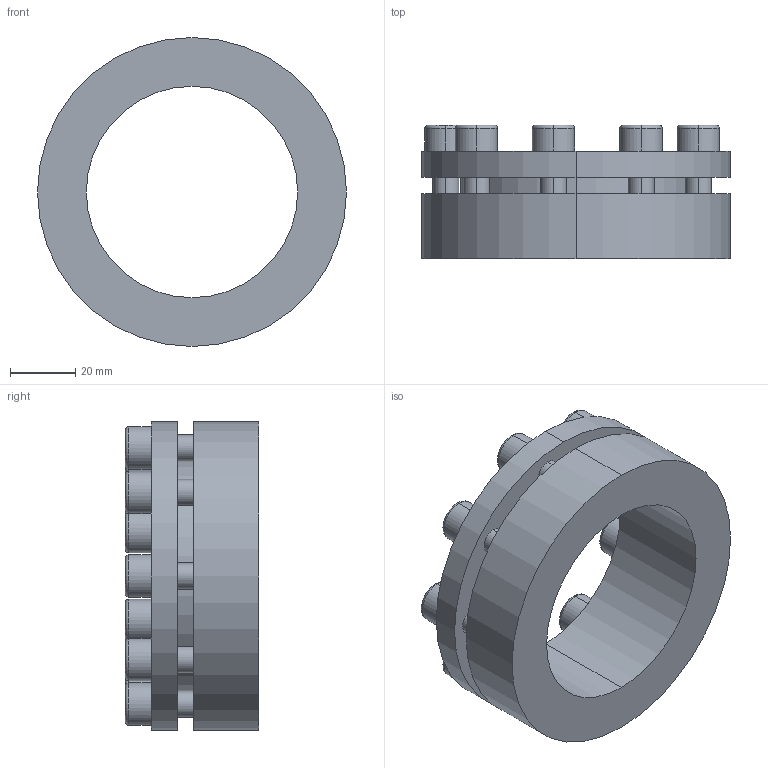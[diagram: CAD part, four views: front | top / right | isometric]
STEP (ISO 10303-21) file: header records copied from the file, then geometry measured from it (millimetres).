
FILE_DESCRIPTION (( 'STEP AP203' ), '1' );
FILE_NAME ('PL-H3 65-95.STEP', '2021-10-23T01:08:44', ( '' ), ( '' ), 'SwSTEP 2.0', 'SolidWorks 2018', '' );
FILE_SCHEMA (( 'CONFIG_CONTROL_DESIGN' ));
Length unit declared in the file: millimetre
Products named in the file (1): PL-H3 65-95
Bounding box: 95 x 41 x 95 mm (x, y, z)
Volume: 118010.3 mm3; surface area: 34260.5 mm2
Topology: 1 solids, 1 shells, 138 faces, 330 edges, 214 vertices
Faces by surface type: plane 76, cylinder 44, torus 18
Entity records: 4131 total; most frequent: DIRECTION 732, CARTESIAN_POINT 683, ORIENTED_EDGE 660, EDGE_CURVE 330, AXIS2_PLACEMENT_3D 263, VERTEX_POINT 214, VECTOR 206, LINE 206
